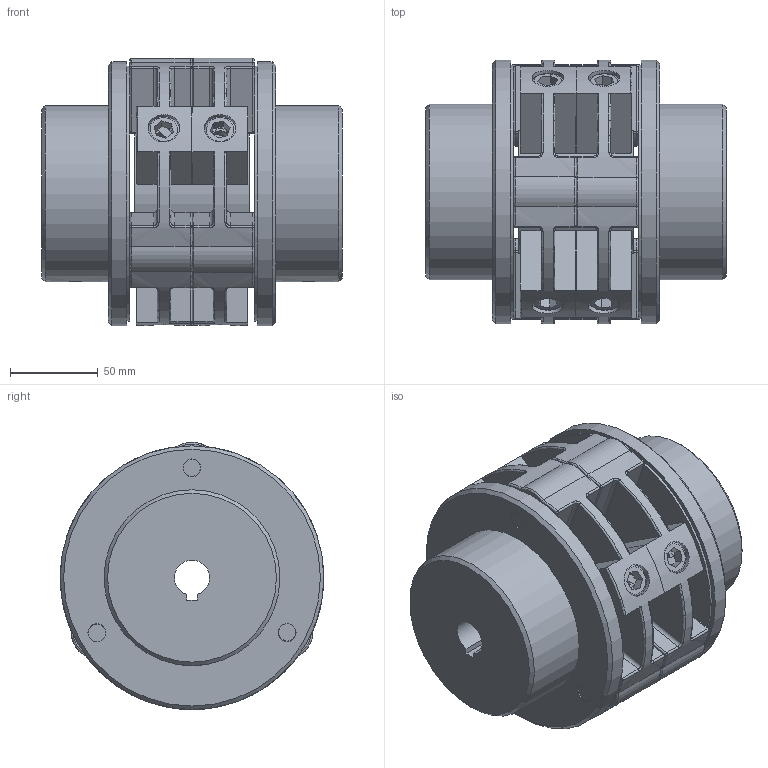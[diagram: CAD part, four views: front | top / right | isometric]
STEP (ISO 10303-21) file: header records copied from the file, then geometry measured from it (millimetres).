
FILE_DESCRIPTION(/* description */ (''),/* implementation_level */ '2;1');
FILE_NAME(/* name */ 'GX16-L71-20-PF-20-PF',/* time_stamp */ '2024-01-05T15:36:04+01:00',/* author */ ('M. Horlacher'),/* organization */ (''),/* preprocessor_version */ 'ST-DEVELOPER v20',/* originating_system */ 'Autodesk Inventor 2024',/* authorisation */ '');
FILE_SCHEMA (('AUTOMOTIVE_DESIGN { 1 0 10303 214 3 1 1 }'));
Length unit declared in the file: millimetre
Products named in the file (8): RP STEP; VE Rohr Dummy; GX16-Nabe; GX16 Befestigungssatz; 080305-1411s ; 100305-1526s ; ISO 4762 - M12 x 35 - 8.8 - VZ A1A; GX16-Nabe_1
Assembly tree (13 placements, depth 3):
  RP STEP
    VE Rohr Dummy
    GX16 Befestigungssatz  x2
      080305-1411s 
      100305-1526s 
      ISO 4762 - M12 x 35 - 8.8 - VZ A1A
    GX16-Nabe
    GX16-Nabe_1
Bounding box: 171 x 150 x 151.95 mm (x, y, z)
Volume: 1719034.2 mm3; surface area: 332810.5 mm2
Topology: 19 solids, 19 shells, 702 faces, 1734 edges, 1036 vertices
Faces by surface type: plane 242, cylinder 198, torus 128, sphere 56, bspline 48, cone 30
Full cylindrical faces by diameter (mm): 8.376 x2, 10.106 x12, 12 x24, 18 x24, 42 x2, 67 x3, 70 x3, 100 x2, 145 x2, 150 x2
Entity records: 10545 total; most frequent: CARTESIAN_POINT 3248, DIRECTION 1501, ORIENTED_EDGE 1428, EDGE_CURVE 714, AXIS2_PLACEMENT_3D 627, VERTEX_POINT 436, EDGE_LOOP 350, CIRCLE 328
